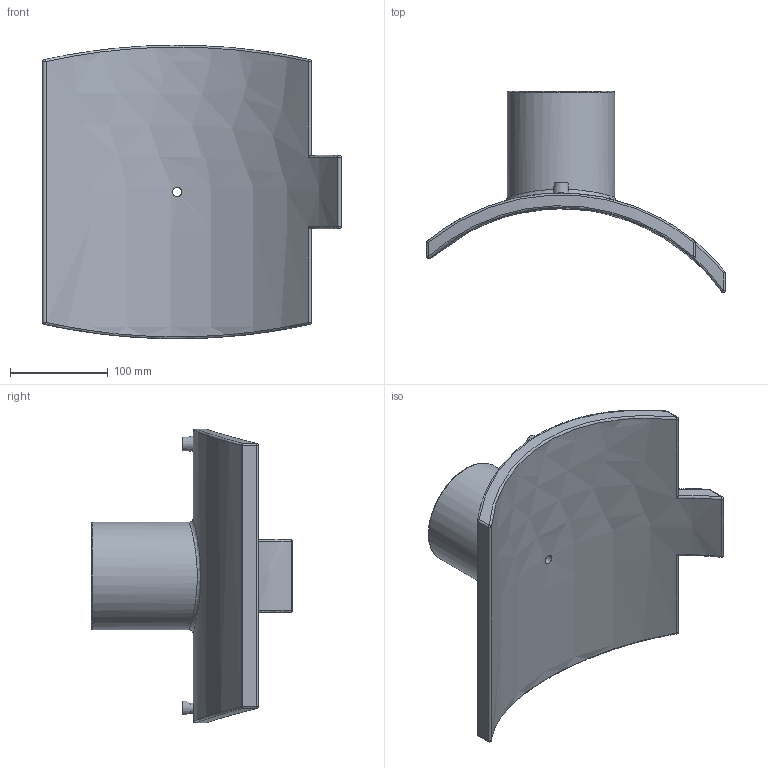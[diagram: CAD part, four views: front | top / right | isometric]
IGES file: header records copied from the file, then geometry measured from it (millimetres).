
Global section: file name: 495804400110T.ipt; native system: Autodesk Inventor 2015; preprocessor: unknown; author: KIM; date: 20171106.094340; units: millimetre
Bounding box: 305 x 205.54 x 299.96 mm (x, y, z)
Volume: 1725420.9 mm3; surface area: 272400.1 mm2
Topology: 2 solids, 2 shells, 66 faces, 132 edges, 78 vertices
Faces by surface type: cylinder 22, plane 14, sphere 12, revolution 11, bspline 5, cone 2
Full cylindrical faces by diameter (mm): 4 x2, 16 x1, 110 x1
